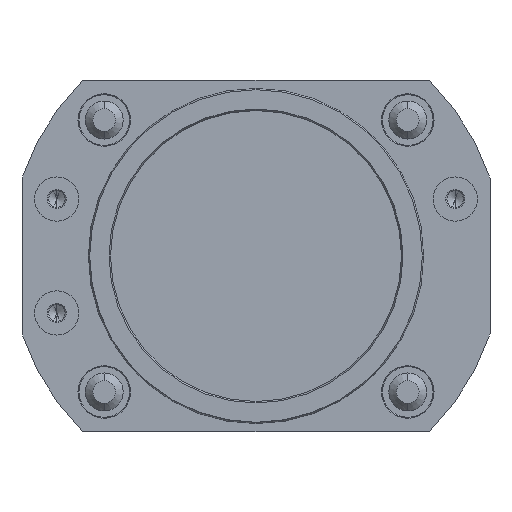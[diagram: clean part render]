
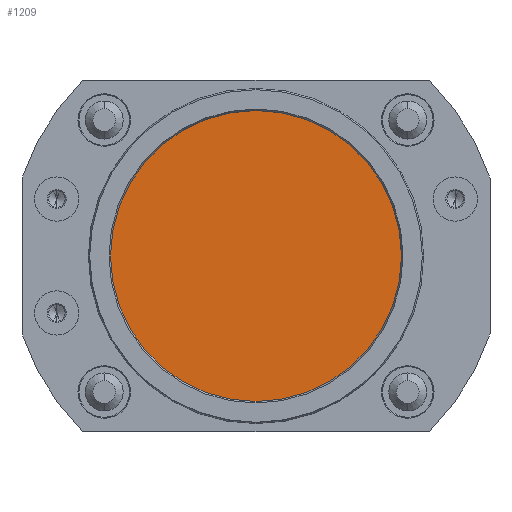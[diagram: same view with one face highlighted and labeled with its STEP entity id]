
A CAD part, front view. The second image highlights one B-rep face of the part: STEP entity #1209.
In plain terms, the highlighted planar face has unit normal (0, -1, 0).
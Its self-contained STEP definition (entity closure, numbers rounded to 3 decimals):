
#198 = EDGE_LOOP ( 'NONE', ( #1118, #1564 ) ) ;
#311 = CIRCLE ( 'NONE', #320, 23. ) ;
#319 = CARTESIAN_POINT ( 'NONE',  ( 0., 3., 0. ) ) ;
#320 = AXIS2_PLACEMENT_3D ( 'NONE', #319, #362, #361 ) ;
#336 = CARTESIAN_POINT ( 'NONE',  ( 0., 3., 23. ) ) ;
#361 = DIRECTION ( 'NONE',  ( 0., 0., 1. ) ) ;
#362 = DIRECTION ( 'NONE',  ( 0., 1., 0. ) ) ;
#445 = CARTESIAN_POINT ( 'NONE',  ( 0., 3., -23. ) ) ;
#1118 = ORIENTED_EDGE ( 'NONE', *, *, #1121, .F. ) ;
#1121 = EDGE_CURVE ( 'NONE', #1836, #1883, #3797, .T. ) ;
#1209 = ADVANCED_FACE ( 'NONE', ( #8813 ), #8611, .T. ) ;
#1564 = ORIENTED_EDGE ( 'NONE', *, *, #1835, .F. ) ;
#1835 = EDGE_CURVE ( 'NONE', #1883, #1836, #311, .T. ) ;
#1836 = VERTEX_POINT ( 'NONE', #336 ) ;
#1883 = VERTEX_POINT ( 'NONE', #445 ) ;
#3761 = DIRECTION ( 'NONE',  ( 0., 0., 1. ) ) ;
#3797 = CIRCLE ( 'NONE', #3798, 23. ) ;
#3798 = AXIS2_PLACEMENT_3D ( 'NONE', #3800, #3799, #3761 ) ;
#3799 = DIRECTION ( 'NONE',  ( 0., 1., 0. ) ) ;
#3800 = CARTESIAN_POINT ( 'NONE',  ( 0., 3., 0. ) ) ;
#8610 = CARTESIAN_POINT ( 'NONE',  ( 0., 3., 0. ) ) ;
#8611 = PLANE ( 'NONE',  #8818 ) ;
#8813 = FACE_OUTER_BOUND ( 'NONE', #198, .T. ) ;
#8815 = DIRECTION ( 'NONE',  ( 0., 0., -1. ) ) ;
#8817 = DIRECTION ( 'NONE',  ( 0., -1., 0. ) ) ;
#8818 = AXIS2_PLACEMENT_3D ( 'NONE', #8610, #8817, #8815 ) ;
